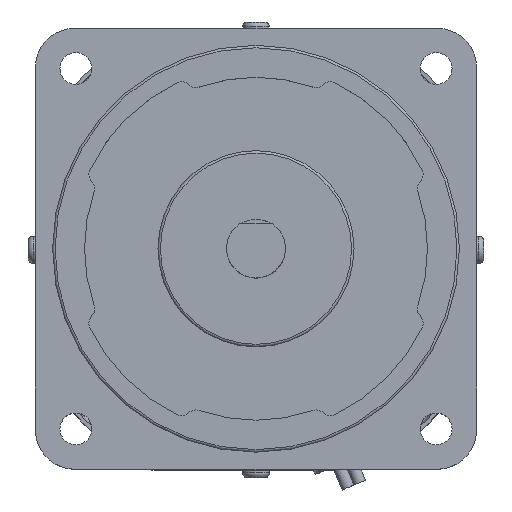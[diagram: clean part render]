
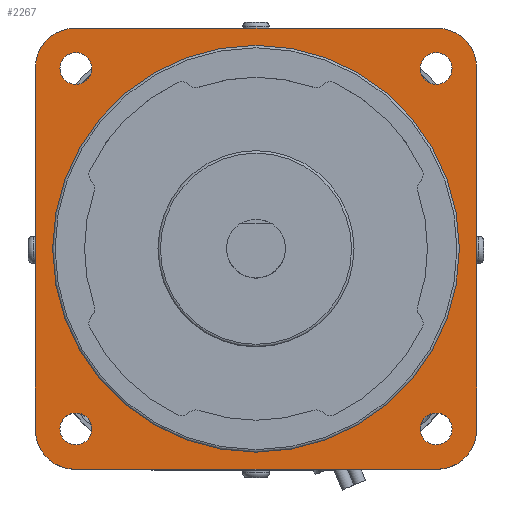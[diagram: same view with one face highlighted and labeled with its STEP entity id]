
A CAD part, top view. The second image highlights one B-rep face of the part: STEP entity #2267.
In plain terms, the highlighted planar face has unit normal (0, 0, 1).
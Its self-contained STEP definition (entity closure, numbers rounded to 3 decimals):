
#83=CARTESIAN_POINT('',(-45.0,-37.0,155.));
#84=VERTEX_POINT('',#83);
#91=CARTESIAN_POINT('',(-45.0,37.,155.));
#92=VERTEX_POINT('',#91);
#93=CARTESIAN_POINT('',(-45.0,-37.0,155.));
#94=DIRECTION('',(0.0,1.0,0.0));
#95=VECTOR('',#94,74.0);
#96=LINE('',#93,#95);
#97=EDGE_CURVE('',#84,#92,#96,.T.);
#1067=CARTESIAN_POINT('',(45.0,37.0,155.));
#1068=VERTEX_POINT('',#1067);
#1069=CARTESIAN_POINT('',(45.0,-37.,155.));
#1070=VERTEX_POINT('',#1069);
#1071=CARTESIAN_POINT('',(45.0,37.0,155.));
#1072=DIRECTION('',(0.0,-1.0,0.0));
#1073=VECTOR('',#1072,74.0);
#1074=LINE('',#1071,#1073);
#1075=EDGE_CURVE('',#1068,#1070,#1074,.T.);
#1113=CARTESIAN_POINT('',(40.02,36.77,155.));
#1114=VERTEX_POINT('',#1113);
#1115=CARTESIAN_POINT('',(36.77,36.77,155.));
#1116=DIRECTION('',(0.0,0.0,-1.0));
#1117=DIRECTION('',(-1.0,0.0,0.0));
#1118=AXIS2_PLACEMENT_3D('',#1115,#1116,#1117);
#1119=CIRCLE('',#1118,3.25);
#1120=EDGE_CURVE('',#1114,#1114,#1119,.T.);
#1139=CARTESIAN_POINT('',(37.,45.0,155.));
#1140=VERTEX_POINT('',#1139);
#1147=CARTESIAN_POINT('',(37.0,37.0,155.));
#1148=DIRECTION('',(0.0,0.0,-1.0));
#1149=DIRECTION('',(-1.0,0.0,0.0));
#1150=AXIS2_PLACEMENT_3D('',#1147,#1148,#1149);
#1151=CIRCLE('',#1150,8.);
#1152=EDGE_CURVE('',#1140,#1068,#1151,.T.);
#1166=CARTESIAN_POINT('',(40.02,-36.77,155.));
#1167=VERTEX_POINT('',#1166);
#1168=CARTESIAN_POINT('',(36.77,-36.77,155.));
#1169=DIRECTION('',(0.0,0.0,-1.0));
#1170=DIRECTION('',(-1.0,0.0,0.0));
#1171=AXIS2_PLACEMENT_3D('',#1168,#1169,#1170);
#1172=CIRCLE('',#1171,3.25);
#1173=EDGE_CURVE('',#1167,#1167,#1172,.T.);
#1185=CARTESIAN_POINT('',(37.0,-45.0,155.));
#1186=VERTEX_POINT('',#1185);
#1187=CARTESIAN_POINT('',(37.0,-37.0,155.));
#1188=DIRECTION('',(0.0,0.0,-1.0));
#1189=DIRECTION('',(0.0,1.0,0.0));
#1190=AXIS2_PLACEMENT_3D('',#1187,#1188,#1189);
#1191=CIRCLE('',#1190,8.);
#1192=EDGE_CURVE('',#1070,#1186,#1191,.T.);
#1211=CARTESIAN_POINT('',(-33.52,-36.77,155.));
#1212=VERTEX_POINT('',#1211);
#1213=CARTESIAN_POINT('',(-36.77,-36.77,155.));
#1214=DIRECTION('',(0.0,0.0,-1.0));
#1215=DIRECTION('',(-1.0,0.0,0.0));
#1216=AXIS2_PLACEMENT_3D('',#1213,#1214,#1215);
#1217=CIRCLE('',#1216,3.25);
#1218=EDGE_CURVE('',#1212,#1212,#1217,.T.);
#1237=CARTESIAN_POINT('',(-37.,-45.0,155.));
#1238=VERTEX_POINT('',#1237);
#1245=CARTESIAN_POINT('',(-37.0,-37.0,155.));
#1246=DIRECTION('',(0.0,0.0,-1.0));
#1247=DIRECTION('',(1.0,0.0,0.0));
#1248=AXIS2_PLACEMENT_3D('',#1245,#1246,#1247);
#1249=CIRCLE('',#1248,8.);
#1250=EDGE_CURVE('',#1238,#84,#1249,.T.);
#1261=CARTESIAN_POINT('',(37.0,-45.0,155.));
#1262=DIRECTION('',(-1.0,0.0,0.0));
#1263=VECTOR('',#1262,74.0);
#1264=LINE('',#1261,#1263);
#1265=EDGE_CURVE('',#1186,#1238,#1264,.T.);
#1289=CARTESIAN_POINT('',(-33.52,36.77,155.));
#1290=VERTEX_POINT('',#1289);
#1291=CARTESIAN_POINT('',(-36.77,36.77,155.));
#1292=DIRECTION('',(0.0,0.0,-1.0));
#1293=DIRECTION('',(-1.0,0.0,0.0));
#1294=AXIS2_PLACEMENT_3D('',#1291,#1292,#1293);
#1295=CIRCLE('',#1294,3.25);
#1296=EDGE_CURVE('',#1290,#1290,#1295,.T.);
#1306=CARTESIAN_POINT('',(-37.0,45.0,155.));
#1307=VERTEX_POINT('',#1306);
#1308=CARTESIAN_POINT('',(-37.0,45.0,155.));
#1309=DIRECTION('',(1.0,0.0,0.0));
#1310=VECTOR('',#1309,74.0);
#1311=LINE('',#1308,#1310);
#1312=EDGE_CURVE('',#1307,#1140,#1311,.T.);
#1351=CARTESIAN_POINT('',(-37.0,37.0,155.));
#1352=DIRECTION('',(0.0,0.0,-1.0));
#1353=DIRECTION('',(0.0,-1.0,0.0));
#1354=AXIS2_PLACEMENT_3D('',#1351,#1352,#1353);
#1355=CIRCLE('',#1354,8.);
#1356=EDGE_CURVE('',#92,#1307,#1355,.T.);
#2222=CARTESIAN_POINT('',(41.5,0.,155.));
#2223=VERTEX_POINT('',#2222);
#2224=CARTESIAN_POINT('',(0.,0.,155.));
#2225=DIRECTION('',(0.0,0.0,-1.0));
#2226=DIRECTION('',(-1.0,0.0,0.0));
#2227=AXIS2_PLACEMENT_3D('',#2224,#2225,#2226);
#2228=CIRCLE('',#2227,41.5);
#2229=EDGE_CURVE('',#2223,#2223,#2228,.T.);
#2237=CARTESIAN_POINT('',(0.,0.,155.));
#2238=DIRECTION('',(0.0,0.0,-1.0));
#2239=DIRECTION('',(-1.0,0.0,0.0));
#2240=AXIS2_PLACEMENT_3D('',#2237,#2238,#2239);
#2241=PLANE('',#2240);
#2242=ORIENTED_EDGE('',*,*,#1075,.F.);
#2243=ORIENTED_EDGE('',*,*,#1152,.F.);
#2244=ORIENTED_EDGE('',*,*,#1312,.F.);
#2245=ORIENTED_EDGE('',*,*,#1356,.F.);
#2246=ORIENTED_EDGE('',*,*,#97,.F.);
#2247=ORIENTED_EDGE('',*,*,#1250,.F.);
#2248=ORIENTED_EDGE('',*,*,#1265,.F.);
#2249=ORIENTED_EDGE('',*,*,#1192,.F.);
#2250=EDGE_LOOP('',(#2242,#2243,#2244,#2245,#2246,#2247,#2248,#2249));
#2251=FACE_OUTER_BOUND('',#2250,.T.);
#2252=ORIENTED_EDGE('',*,*,#2229,.T.);
#2253=EDGE_LOOP('',(#2252));
#2254=FACE_BOUND('',#2253,.T.);
#2255=ORIENTED_EDGE('',*,*,#1296,.T.);
#2256=EDGE_LOOP('',(#2255));
#2257=FACE_BOUND('',#2256,.T.);
#2258=ORIENTED_EDGE('',*,*,#1218,.T.);
#2259=EDGE_LOOP('',(#2258));
#2260=FACE_BOUND('',#2259,.T.);
#2261=ORIENTED_EDGE('',*,*,#1173,.T.);
#2262=EDGE_LOOP('',(#2261));
#2263=FACE_BOUND('',#2262,.T.);
#2264=ORIENTED_EDGE('',*,*,#1120,.T.);
#2265=EDGE_LOOP('',(#2264));
#2266=FACE_BOUND('',#2265,.T.);
#2267=ADVANCED_FACE('',(#2251,#2254,#2257,#2260,#2263,#2266),#2241,.F.);
